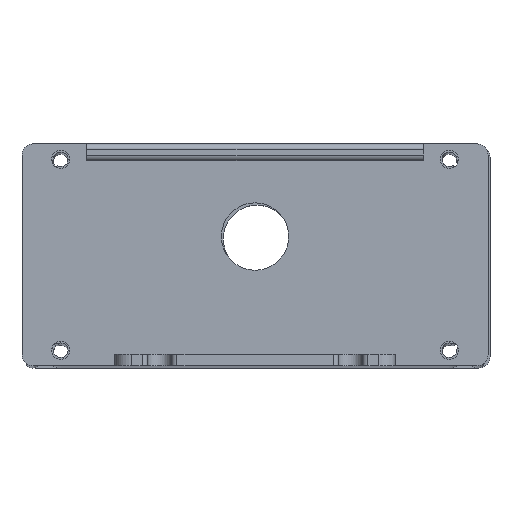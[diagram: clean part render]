
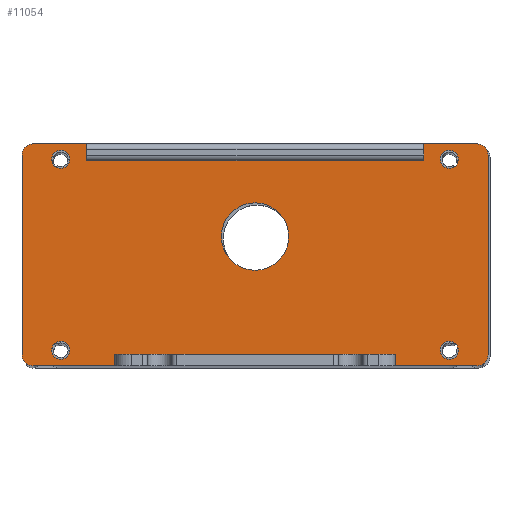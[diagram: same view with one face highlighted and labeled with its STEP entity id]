
A CAD part, top view. The second image highlights one B-rep face of the part: STEP entity #11054.
In plain terms, the highlighted planar face has unit normal (0, 0, 1) as drawn and (0, 1, 0) by its records, which use the part's own axes.
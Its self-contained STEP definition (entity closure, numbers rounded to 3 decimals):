
#10211=CARTESIAN_POINT('',(-34.6,2.,-17.002));
#10212=DIRECTION('',(0.,1.,0.));
#10213=DIRECTION('',(1.,0.,0.));
#10214=AXIS2_PLACEMENT_3D('',#10211,#10212,#10213);
#10216=CARTESIAN_POINT('',(-34.6,2.,-17.002));
#10217=DIRECTION('',(0.,1.,0.));
#10218=DIRECTION('',(-1.,0.,0.));
#10219=AXIS2_PLACEMENT_3D('',#10216,#10217,#10218);
#10221=CARTESIAN_POINT('',(34.6,2.,-17.002));
#10222=DIRECTION('',(0.,1.,0.));
#10223=DIRECTION('',(1.,0.,0.));
#10224=AXIS2_PLACEMENT_3D('',#10221,#10222,#10223);
#10226=CARTESIAN_POINT('',(34.6,2.,-17.002));
#10227=DIRECTION('',(0.,1.,0.));
#10228=DIRECTION('',(-1.,0.,0.));
#10229=AXIS2_PLACEMENT_3D('',#10226,#10227,#10228);
#10231=CARTESIAN_POINT('',(34.6,2.,17.));
#10232=DIRECTION('',(0.,1.,0.));
#10233=DIRECTION('',(1.,0.,0.));
#10234=AXIS2_PLACEMENT_3D('',#10231,#10232,#10233);
#10236=CARTESIAN_POINT('',(34.6,2.,17.));
#10237=DIRECTION('',(0.,1.,0.));
#10238=DIRECTION('',(-1.,0.,0.));
#10239=AXIS2_PLACEMENT_3D('',#10236,#10237,#10238);
#10241=CARTESIAN_POINT('',(-34.6,2.,17.));
#10242=DIRECTION('',(0.,1.,0.));
#10243=DIRECTION('',(1.,0.,0.));
#10244=AXIS2_PLACEMENT_3D('',#10241,#10242,#10243);
#10246=CARTESIAN_POINT('',(-34.6,2.,17.));
#10247=DIRECTION('',(0.,1.,0.));
#10248=DIRECTION('',(-1.,0.,0.));
#10249=AXIS2_PLACEMENT_3D('',#10246,#10247,#10248);
#10251=CARTESIAN_POINT('',(0.,2.,-3.25));
#10252=DIRECTION('',(0.,1.,0.));
#10253=DIRECTION('',(1.,0.,0.));
#10254=AXIS2_PLACEMENT_3D('',#10251,#10252,#10253);
#10256=CARTESIAN_POINT('',(0.,2.,-3.25));
#10257=DIRECTION('',(0.,1.,0.));
#10258=DIRECTION('',(-1.,0.,0.));
#10259=AXIS2_PLACEMENT_3D('',#10256,#10257,#10258);
#10261=DIRECTION('',(0.,0.,1.));
#10262=VECTOR('',#10261,3.);
#10263=CARTESIAN_POINT('',(-30.,2.,-19.75));
#10264=LINE('',#10263,#10262);
#10265=DIRECTION('',(1.,0.,0.));
#10266=VECTOR('',#10265,60.);
#10267=CARTESIAN_POINT('',(-30.,2.,-16.75));
#10268=LINE('',#10267,#10266);
#10269=DIRECTION('',(0.,0.,1.));
#10270=VECTOR('',#10269,3.);
#10271=CARTESIAN_POINT('',(30.,2.,-19.75));
#10272=LINE('',#10271,#10270);
#10273=DIRECTION('',(-1.,0.,0.));
#10274=VECTOR('',#10273,9.5);
#10275=CARTESIAN_POINT('',(39.5,2.,-19.75));
#10276=LINE('',#10275,#10274);
#10277=CARTESIAN_POINT('',(39.5,2.,-17.75));
#10278=DIRECTION('',(0.,1.,0.));
#10279=DIRECTION('',(1.,0.,0.));
#10280=AXIS2_PLACEMENT_3D('',#10277,#10278,#10279);
#10282=DIRECTION('',(0.,0.,1.));
#10283=VECTOR('',#10282,35.5);
#10284=CARTESIAN_POINT('',(41.5,2.,-17.75));
#10285=LINE('',#10284,#10283);
#10286=CARTESIAN_POINT('',(39.5,2.,17.75));
#10287=DIRECTION('',(0.,1.,0.));
#10288=DIRECTION('',(0.,0.,1.));
#10289=AXIS2_PLACEMENT_3D('',#10286,#10287,#10288);
#10291=DIRECTION('',(1.,0.,0.));
#10292=VECTOR('',#10291,50.);
#10293=CARTESIAN_POINT('',(-25.,2.,17.75));
#10294=LINE('',#10293,#10292);
#10295=DIRECTION('',(0.,0.,1.));
#10296=VECTOR('',#10295,2.);
#10297=CARTESIAN_POINT('',(-25.,2.,17.75));
#10298=LINE('',#10297,#10296);
#10299=CARTESIAN_POINT('',(-39.5,2.,17.75));
#10300=DIRECTION('',(0.,1.,0.));
#10301=DIRECTION('',(-1.,0.,0.));
#10302=AXIS2_PLACEMENT_3D('',#10299,#10300,#10301);
#10304=DIRECTION('',(0.,0.,-1.));
#10305=VECTOR('',#10304,35.5);
#10306=CARTESIAN_POINT('',(-41.5,2.,17.75));
#10307=LINE('',#10306,#10305);
#10308=CARTESIAN_POINT('',(-39.5,2.,-17.75));
#10309=DIRECTION('',(0.,1.,0.));
#10310=DIRECTION('',(0.,0.,-1.));
#10311=AXIS2_PLACEMENT_3D('',#10308,#10309,#10310);
#10313=DIRECTION('',(-1.,0.,0.));
#10314=VECTOR('',#10313,9.5);
#10315=CARTESIAN_POINT('',(-30.,2.,-19.75));
#10316=LINE('',#10315,#10314);
#10490=DIRECTION('',(-1.,0.,0.));
#10491=VECTOR('',#10490,14.5);
#10492=CARTESIAN_POINT('',(39.5,2.,19.75));
#10493=LINE('',#10492,#10491);
#10502=DIRECTION('',(1.,0.,0.));
#10503=VECTOR('',#10502,14.5);
#10504=CARTESIAN_POINT('',(-39.5,2.,19.75));
#10505=LINE('',#10504,#10503);
#10701=DIRECTION('',(0.,0.,1.));
#10702=VECTOR('',#10701,2.);
#10703=CARTESIAN_POINT('',(25.,2.,17.75));
#10704=LINE('',#10703,#10702);
#10721=CARTESIAN_POINT('',(-25.,2.,17.75));
#10722=CARTESIAN_POINT('',(25.,2.,17.75));
#10723=VERTEX_POINT('',#10721);
#10724=VERTEX_POINT('',#10722);
#10725=CARTESIAN_POINT('',(-25.,2.,19.75));
#10726=VERTEX_POINT('',#10725);
#10727=CARTESIAN_POINT('',(25.,2.,19.75));
#10728=VERTEX_POINT('',#10727);
#10745=CARTESIAN_POINT('',(-33.,2.,-17.002));
#10746=CARTESIAN_POINT('',(-36.2,2.,-17.002));
#10747=VERTEX_POINT('',#10745);
#10748=VERTEX_POINT('',#10746);
#10749=CARTESIAN_POINT('',(36.2,2.,-17.002));
#10750=CARTESIAN_POINT('',(33.,2.,-17.002));
#10751=VERTEX_POINT('',#10749);
#10752=VERTEX_POINT('',#10750);
#10753=CARTESIAN_POINT('',(36.2,2.,17.));
#10754=CARTESIAN_POINT('',(33.,2.,17.));
#10755=VERTEX_POINT('',#10753);
#10756=VERTEX_POINT('',#10754);
#10757=CARTESIAN_POINT('',(-33.,2.,17.));
#10758=CARTESIAN_POINT('',(-36.2,2.,17.));
#10759=VERTEX_POINT('',#10757);
#10760=VERTEX_POINT('',#10758);
#10765=CARTESIAN_POINT('',(41.5,2.,-17.75));
#10766=VERTEX_POINT('',#10765);
#10767=CARTESIAN_POINT('',(39.5,2.,-19.75));
#10768=VERTEX_POINT('',#10767);
#10773=CARTESIAN_POINT('',(39.5,2.,19.75));
#10774=VERTEX_POINT('',#10773);
#10775=CARTESIAN_POINT('',(41.5,2.,17.75));
#10776=VERTEX_POINT('',#10775);
#10781=CARTESIAN_POINT('',(-39.5,2.,-19.75));
#10782=VERTEX_POINT('',#10781);
#10783=CARTESIAN_POINT('',(-41.5,2.,-17.75));
#10784=VERTEX_POINT('',#10783);
#10785=CARTESIAN_POINT('',(-41.5,2.,17.75));
#10786=CARTESIAN_POINT('',(-39.5,2.,19.75));
#10787=VERTEX_POINT('',#10785);
#10788=VERTEX_POINT('',#10786);
#10877=CARTESIAN_POINT('',(6.,2.,-3.25));
#10878=CARTESIAN_POINT('',(-6.,2.,-3.25));
#10879=VERTEX_POINT('',#10877);
#10880=VERTEX_POINT('',#10878);
#10881=CARTESIAN_POINT('',(-30.,2.,-19.75));
#10882=CARTESIAN_POINT('',(-30.,2.,-16.75));
#10883=VERTEX_POINT('',#10881);
#10884=VERTEX_POINT('',#10882);
#10885=CARTESIAN_POINT('',(30.,2.,-16.75));
#10886=VERTEX_POINT('',#10885);
#10887=CARTESIAN_POINT('',(30.,2.,-19.75));
#10888=VERTEX_POINT('',#10887);
#10987=CARTESIAN_POINT('',(0.,2.,0.));
#10988=DIRECTION('',(0.,1.,0.));
#10989=DIRECTION('',(1.,0.,0.));
#10990=AXIS2_PLACEMENT_3D('',#10987,#10988,#10989);
#10991=PLANE('',#10990);
#10993=ORIENTED_EDGE('',*,*,#10992,.T.);
#10995=ORIENTED_EDGE('',*,*,#10994,.T.);
#10997=ORIENTED_EDGE('',*,*,#10996,.F.);
#10999=ORIENTED_EDGE('',*,*,#10998,.F.);
#11001=ORIENTED_EDGE('',*,*,#11000,.F.);
#11003=ORIENTED_EDGE('',*,*,#11002,.T.);
#11005=ORIENTED_EDGE('',*,*,#11004,.F.);
#11007=ORIENTED_EDGE('',*,*,#11006,.T.);
#11009=ORIENTED_EDGE('',*,*,#11008,.F.);
#11011=ORIENTED_EDGE('',*,*,#11010,.F.);
#11013=ORIENTED_EDGE('',*,*,#11012,.T.);
#11015=ORIENTED_EDGE('',*,*,#11014,.F.);
#11017=ORIENTED_EDGE('',*,*,#11016,.F.);
#11019=ORIENTED_EDGE('',*,*,#11018,.T.);
#11021=ORIENTED_EDGE('',*,*,#11020,.F.);
#11023=ORIENTED_EDGE('',*,*,#11022,.F.);
#11024=EDGE_LOOP('',(#10993,#10995,#10997,#10999,#11001,#11003,#11005,#11007,
#11009,#11011,#11013,#11015,#11017,#11019,#11021,#11023));
#11025=FACE_OUTER_BOUND('',#11024,.F.);
#11027=ORIENTED_EDGE('',*,*,#11026,.T.);
#11029=ORIENTED_EDGE('',*,*,#11028,.T.);
#11030=EDGE_LOOP('',(#11027,#11029));
#11031=FACE_BOUND('',#11030,.F.);
#11033=ORIENTED_EDGE('',*,*,#11032,.T.);
#11035=ORIENTED_EDGE('',*,*,#11034,.T.);
#11036=EDGE_LOOP('',(#11033,#11035));
#11037=FACE_BOUND('',#11036,.F.);
#11039=ORIENTED_EDGE('',*,*,#11038,.T.);
#11041=ORIENTED_EDGE('',*,*,#11040,.T.);
#11042=EDGE_LOOP('',(#11039,#11041));
#11043=FACE_BOUND('',#11042,.F.);
#11045=ORIENTED_EDGE('',*,*,#11044,.T.);
#11047=ORIENTED_EDGE('',*,*,#11046,.T.);
#11048=EDGE_LOOP('',(#11045,#11047));
#11049=FACE_BOUND('',#11048,.F.);
#11050=ORIENTED_EDGE('',*,*,#10967,.T.);
#11051=ORIENTED_EDGE('',*,*,#10981,.T.);
#11052=EDGE_LOOP('',(#11050,#11051));
#11053=FACE_BOUND('',#11052,.F.);
#10215=CIRCLE('',#10214,1.6);
#10220=CIRCLE('',#10219,1.6);
#10225=CIRCLE('',#10224,1.6);
#10230=CIRCLE('',#10229,1.6);
#10235=CIRCLE('',#10234,1.6);
#10240=CIRCLE('',#10239,1.6);
#10245=CIRCLE('',#10244,1.6);
#10250=CIRCLE('',#10249,1.6);
#10255=CIRCLE('',#10254,6.);
#10260=CIRCLE('',#10259,6.);
#10281=CIRCLE('',#10280,2.);
#10290=CIRCLE('',#10289,2.);
#10303=CIRCLE('',#10302,2.);
#10312=CIRCLE('',#10311,2.);
#10967=EDGE_CURVE('',#10747,#10748,#10215,.T.);
#10981=EDGE_CURVE('',#10748,#10747,#10220,.T.);
#10992=EDGE_CURVE('',#10883,#10884,#10264,.T.);
#10994=EDGE_CURVE('',#10884,#10886,#10268,.T.);
#10996=EDGE_CURVE('',#10888,#10886,#10272,.T.);
#10998=EDGE_CURVE('',#10768,#10888,#10276,.T.);
#11000=EDGE_CURVE('',#10766,#10768,#10281,.T.);
#11002=EDGE_CURVE('',#10766,#10776,#10285,.T.);
#11004=EDGE_CURVE('',#10774,#10776,#10290,.T.);
#11006=EDGE_CURVE('',#10774,#10728,#10493,.T.);
#11008=EDGE_CURVE('',#10724,#10728,#10704,.T.);
#11010=EDGE_CURVE('',#10723,#10724,#10294,.T.);
#11012=EDGE_CURVE('',#10723,#10726,#10298,.T.);
#11014=EDGE_CURVE('',#10788,#10726,#10505,.T.);
#11016=EDGE_CURVE('',#10787,#10788,#10303,.T.);
#11018=EDGE_CURVE('',#10787,#10784,#10307,.T.);
#11020=EDGE_CURVE('',#10782,#10784,#10312,.T.);
#11022=EDGE_CURVE('',#10883,#10782,#10316,.T.);
#11026=EDGE_CURVE('',#10751,#10752,#10225,.T.);
#11028=EDGE_CURVE('',#10752,#10751,#10230,.T.);
#11032=EDGE_CURVE('',#10755,#10756,#10235,.T.);
#11034=EDGE_CURVE('',#10756,#10755,#10240,.T.);
#11038=EDGE_CURVE('',#10759,#10760,#10245,.T.);
#11040=EDGE_CURVE('',#10760,#10759,#10250,.T.);
#11044=EDGE_CURVE('',#10879,#10880,#10255,.T.);
#11046=EDGE_CURVE('',#10880,#10879,#10260,.T.);
#11054=ADVANCED_FACE('',(#11025,#11031,#11037,#11043,#11049,#11053),#10991,.T.);
